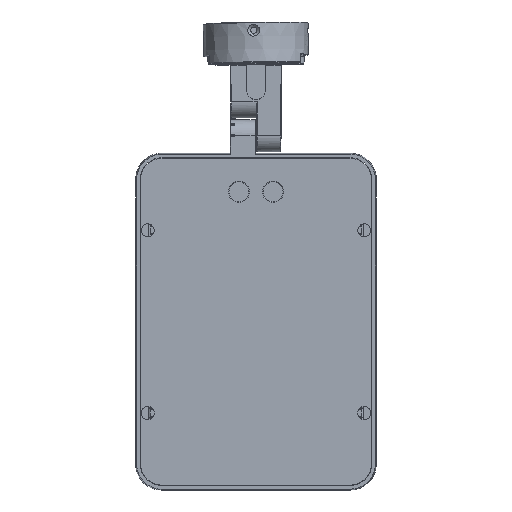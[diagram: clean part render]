
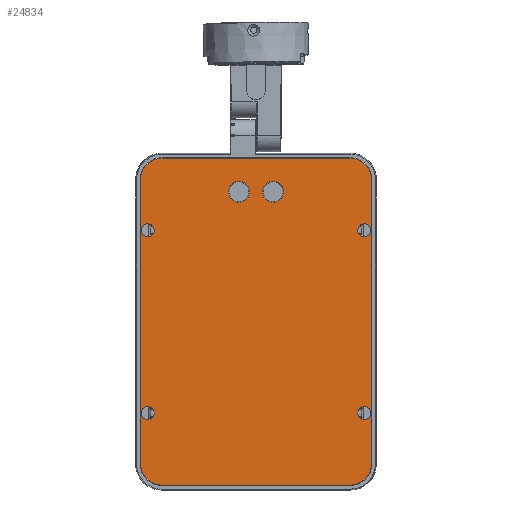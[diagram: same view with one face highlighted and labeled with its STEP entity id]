
A CAD part, front view. The second image highlights one B-rep face of the part: STEP entity #24834.
In plain terms, the highlighted planar face has unit normal (0, -1, 0).
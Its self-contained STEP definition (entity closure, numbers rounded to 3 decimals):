
#11557=CARTESIAN_POINT('',(67.5,0.5,57.));
#11558=DIRECTION('',(0.,-1.,0.));
#11559=DIRECTION('',(1.,0.,0.));
#11560=AXIS2_PLACEMENT_3D('',#11557,#11558,#11559);
#11562=CARTESIAN_POINT('',(67.5,0.5,57.));
#11563=DIRECTION('',(0.,-1.,0.));
#11564=DIRECTION('',(-1.,0.,0.));
#11565=AXIS2_PLACEMENT_3D('',#11562,#11563,#11564);
#11567=CARTESIAN_POINT('',(-67.5,0.5,-57.));
#11568=DIRECTION('',(0.,-1.,0.));
#11569=DIRECTION('',(-1.,0.,0.));
#11570=AXIS2_PLACEMENT_3D('',#11567,#11568,#11569);
#11572=CARTESIAN_POINT('',(-67.5,0.5,-57.));
#11573=DIRECTION('',(0.,-1.,0.));
#11574=DIRECTION('',(1.,0.,0.));
#11575=AXIS2_PLACEMENT_3D('',#11572,#11573,#11574);
#11577=CARTESIAN_POINT('',(-67.5,0.5,57.));
#11578=DIRECTION('',(0.,1.,0.));
#11579=DIRECTION('',(-1.,0.,0.));
#11580=AXIS2_PLACEMENT_3D('',#11577,#11578,#11579);
#11582=CARTESIAN_POINT('',(-67.5,0.5,57.));
#11583=DIRECTION('',(0.,-1.,0.));
#11584=DIRECTION('',(-1.,0.,0.));
#11585=AXIS2_PLACEMENT_3D('',#11582,#11583,#11584);
#11587=CARTESIAN_POINT('',(67.5,0.5,-57.));
#11588=DIRECTION('',(0.,-1.,0.));
#11589=DIRECTION('',(-1.,0.,0.));
#11590=AXIS2_PLACEMENT_3D('',#11587,#11588,#11589);
#11592=CARTESIAN_POINT('',(67.5,0.5,-57.));
#11593=DIRECTION('',(0.,-1.,0.));
#11594=DIRECTION('',(1.,0.,0.));
#11595=AXIS2_PLACEMENT_3D('',#11592,#11593,#11594);
#11597=CARTESIAN_POINT('',(58.5,0.5,-88.5));
#11598=DIRECTION('',(0.,1.,0.));
#11599=DIRECTION('',(1.,0.,0.));
#11600=AXIS2_PLACEMENT_3D('',#11597,#11598,#11599);
#11602=DIRECTION('',(-1.,0.,0.));
#11603=VECTOR('',#11602,117.);
#11604=CARTESIAN_POINT('',(58.5,0.5,-102.));
#11605=LINE('',#11604,#11603);
#11606=CARTESIAN_POINT('',(-58.5,0.5,-88.5));
#11607=DIRECTION('',(0.,1.,0.));
#11608=DIRECTION('',(0.,0.,-1.));
#11609=AXIS2_PLACEMENT_3D('',#11606,#11607,#11608);
#11611=DIRECTION('',(0.,0.,1.));
#11612=VECTOR('',#11611,177.);
#11613=CARTESIAN_POINT('',(-72.,0.5,-88.5));
#11614=LINE('',#11613,#11612);
#11615=CARTESIAN_POINT('',(-58.5,0.5,88.5));
#11616=DIRECTION('',(0.,1.,0.));
#11617=DIRECTION('',(-1.,0.,0.));
#11618=AXIS2_PLACEMENT_3D('',#11615,#11616,#11617);
#11620=DIRECTION('',(1.,0.,0.));
#11621=VECTOR('',#11620,117.);
#11622=CARTESIAN_POINT('',(-58.5,0.5,102.));
#11623=LINE('',#11622,#11621);
#11624=CARTESIAN_POINT('',(58.5,0.5,88.5));
#11625=DIRECTION('',(0.,1.,0.));
#11626=DIRECTION('',(0.,0.,1.));
#11627=AXIS2_PLACEMENT_3D('',#11624,#11625,#11626);
#11629=DIRECTION('',(0.,0.,-1.));
#11630=VECTOR('',#11629,177.);
#11631=CARTESIAN_POINT('',(72.,0.5,88.5));
#11632=LINE('',#11631,#11630);
#11633=CARTESIAN_POINT('',(-10.65,0.5,81.));
#11634=DIRECTION('',(0.,1.,0.));
#11635=DIRECTION('',(-1.,0.,0.));
#11636=AXIS2_PLACEMENT_3D('',#11633,#11634,#11635);
#11638=CARTESIAN_POINT('',(-10.65,0.5,81.));
#11639=DIRECTION('',(0.,1.,0.));
#11640=DIRECTION('',(1.,0.,0.));
#11641=AXIS2_PLACEMENT_3D('',#11638,#11639,#11640);
#11643=CARTESIAN_POINT('',(10.65,0.5,81.));
#11644=DIRECTION('',(0.,1.,0.));
#11645=DIRECTION('',(-1.,0.,0.));
#11646=AXIS2_PLACEMENT_3D('',#11643,#11644,#11645);
#11648=CARTESIAN_POINT('',(10.65,0.5,81.));
#11649=DIRECTION('',(0.,1.,0.));
#11650=DIRECTION('',(1.,0.,0.));
#11651=AXIS2_PLACEMENT_3D('',#11648,#11649,#11650);
#22045=CARTESIAN_POINT('',(71.55,0.5,57.));
#22046=CARTESIAN_POINT('',(63.45,0.5,57.));
#22047=VERTEX_POINT('',#22045);
#22048=VERTEX_POINT('',#22046);
#22049=CARTESIAN_POINT('',(58.5,0.5,-102.));
#22050=CARTESIAN_POINT('',(72.,0.5,-88.5));
#22051=VERTEX_POINT('',#22049);
#22052=VERTEX_POINT('',#22050);
#22053=CARTESIAN_POINT('',(72.,0.5,88.5));
#22054=VERTEX_POINT('',#22053);
#22055=CARTESIAN_POINT('',(58.5,0.5,102.));
#22056=VERTEX_POINT('',#22055);
#22057=CARTESIAN_POINT('',(-58.5,0.5,102.));
#22058=VERTEX_POINT('',#22057);
#22059=CARTESIAN_POINT('',(-72.,0.5,88.5));
#22060=VERTEX_POINT('',#22059);
#22061=CARTESIAN_POINT('',(-72.,0.5,-88.5));
#22062=VERTEX_POINT('',#22061);
#22063=CARTESIAN_POINT('',(-58.5,0.5,-102.));
#22064=VERTEX_POINT('',#22063);
#22081=CARTESIAN_POINT('',(-71.55,0.5,-57.));
#22082=CARTESIAN_POINT('',(-63.45,0.5,-57.));
#22083=VERTEX_POINT('',#22081);
#22084=VERTEX_POINT('',#22082);
#22089=CARTESIAN_POINT('',(-71.55,0.5,57.));
#22090=VERTEX_POINT('',#22089);
#22091=CARTESIAN_POINT('',(-63.45,0.5,57.));
#22092=VERTEX_POINT('',#22091);
#22093=CARTESIAN_POINT('',(71.55,0.5,-57.));
#22094=CARTESIAN_POINT('',(63.45,0.5,-57.));
#22095=VERTEX_POINT('',#22093);
#22096=VERTEX_POINT('',#22094);
#22375=CARTESIAN_POINT('',(-17.2,0.5,81.));
#22376=CARTESIAN_POINT('',(-4.1,0.5,81.));
#22377=VERTEX_POINT('',#22375);
#22378=VERTEX_POINT('',#22376);
#22383=CARTESIAN_POINT('',(4.1,0.5,81.));
#22384=CARTESIAN_POINT('',(17.2,0.5,81.));
#22385=VERTEX_POINT('',#22383);
#22386=VERTEX_POINT('',#22384);
#24775=CARTESIAN_POINT('',(0.,0.5,0.));
#24776=DIRECTION('',(0.,1.,0.));
#24777=DIRECTION('',(1.,0.,0.));
#24778=AXIS2_PLACEMENT_3D('',#24775,#24776,#24777);
#24779=PLANE('',#24778);
#24781=ORIENTED_EDGE('',*,*,#24780,.T.);
#24783=ORIENTED_EDGE('',*,*,#24782,.T.);
#24785=ORIENTED_EDGE('',*,*,#24784,.T.);
#24787=ORIENTED_EDGE('',*,*,#24786,.T.);
#24789=ORIENTED_EDGE('',*,*,#24788,.T.);
#24791=ORIENTED_EDGE('',*,*,#24790,.T.);
#24793=ORIENTED_EDGE('',*,*,#24792,.T.);
#24795=ORIENTED_EDGE('',*,*,#24794,.T.);
#24796=EDGE_LOOP('',(#24781,#24783,#24785,#24787,#24789,#24791,#24793,#24795));
#24797=FACE_OUTER_BOUND('',#24796,.F.);
#24799=ORIENTED_EDGE('',*,*,#24798,.T.);
#24801=ORIENTED_EDGE('',*,*,#24800,.T.);
#24802=EDGE_LOOP('',(#24799,#24801));
#24803=FACE_BOUND('',#24802,.F.);
#24805=ORIENTED_EDGE('',*,*,#24804,.F.);
#24807=ORIENTED_EDGE('',*,*,#24806,.T.);
#24808=EDGE_LOOP('',(#24805,#24807));
#24809=FACE_BOUND('',#24808,.F.);
#24811=ORIENTED_EDGE('',*,*,#24810,.T.);
#24813=ORIENTED_EDGE('',*,*,#24812,.T.);
#24814=EDGE_LOOP('',(#24811,#24813));
#24815=FACE_BOUND('',#24814,.F.);
#24817=ORIENTED_EDGE('',*,*,#24816,.T.);
#24819=ORIENTED_EDGE('',*,*,#24818,.T.);
#24820=EDGE_LOOP('',(#24817,#24819));
#24821=FACE_BOUND('',#24820,.F.);
#24823=ORIENTED_EDGE('',*,*,#24822,.F.);
#24825=ORIENTED_EDGE('',*,*,#24824,.F.);
#24826=EDGE_LOOP('',(#24823,#24825));
#24827=FACE_BOUND('',#24826,.F.);
#24829=ORIENTED_EDGE('',*,*,#24828,.F.);
#24831=ORIENTED_EDGE('',*,*,#24830,.F.);
#24832=EDGE_LOOP('',(#24829,#24831));
#24833=FACE_BOUND('',#24832,.F.);
#24834=ADVANCED_FACE('',(#24797,#24803,#24809,#24815,#24821,#24827,#24833),
#24779,.F.);
#11561=CIRCLE('',#11560,4.05);
#11566=CIRCLE('',#11565,4.05);
#11571=CIRCLE('',#11570,4.05);
#11576=CIRCLE('',#11575,4.05);
#11581=CIRCLE('',#11580,4.05);
#11586=CIRCLE('',#11585,4.05);
#11591=CIRCLE('',#11590,4.05);
#11596=CIRCLE('',#11595,4.05);
#11601=CIRCLE('',#11600,13.5);
#11610=CIRCLE('',#11609,13.5);
#11619=CIRCLE('',#11618,13.5);
#11628=CIRCLE('',#11627,13.5);
#11637=CIRCLE('',#11636,6.55);
#11642=CIRCLE('',#11641,6.55);
#11647=CIRCLE('',#11646,6.55);
#11652=CIRCLE('',#11651,6.55);
#24780=EDGE_CURVE('',#22052,#22051,#11601,.T.);
#24782=EDGE_CURVE('',#22051,#22064,#11605,.T.);
#24784=EDGE_CURVE('',#22064,#22062,#11610,.T.);
#24786=EDGE_CURVE('',#22062,#22060,#11614,.T.);
#24788=EDGE_CURVE('',#22060,#22058,#11619,.T.);
#24790=EDGE_CURVE('',#22058,#22056,#11623,.T.);
#24792=EDGE_CURVE('',#22056,#22054,#11628,.T.);
#24794=EDGE_CURVE('',#22054,#22052,#11632,.T.);
#24798=EDGE_CURVE('',#22083,#22084,#11571,.T.);
#24800=EDGE_CURVE('',#22084,#22083,#11576,.T.);
#24804=EDGE_CURVE('',#22090,#22092,#11581,.T.);
#24806=EDGE_CURVE('',#22090,#22092,#11586,.T.);
#24810=EDGE_CURVE('',#22096,#22095,#11591,.T.);
#24812=EDGE_CURVE('',#22095,#22096,#11596,.T.);
#24816=EDGE_CURVE('',#22047,#22048,#11561,.T.);
#24818=EDGE_CURVE('',#22048,#22047,#11566,.T.);
#24822=EDGE_CURVE('',#22377,#22378,#11637,.T.);
#24824=EDGE_CURVE('',#22378,#22377,#11642,.T.);
#24828=EDGE_CURVE('',#22385,#22386,#11647,.T.);
#24830=EDGE_CURVE('',#22386,#22385,#11652,.T.);
